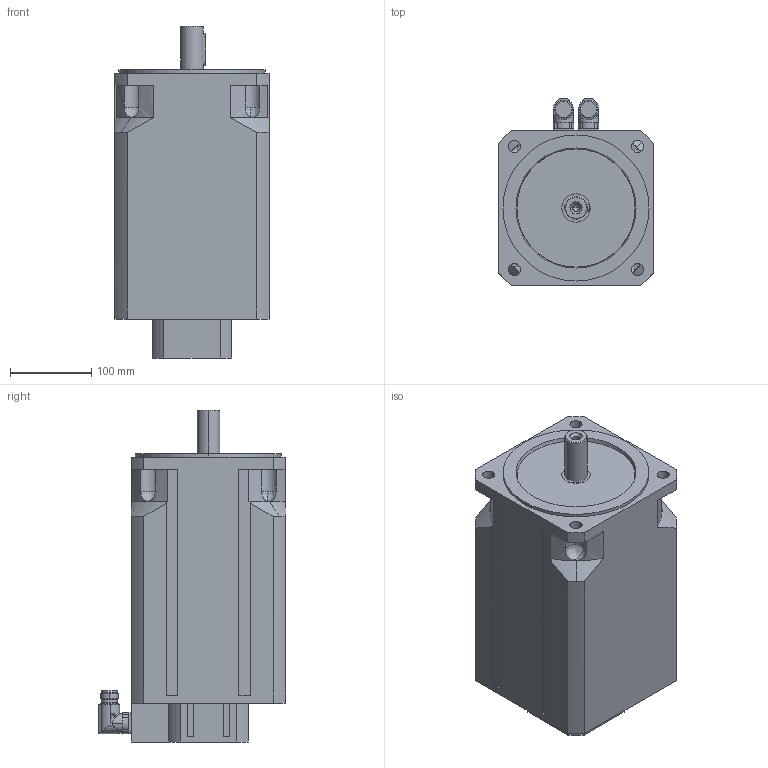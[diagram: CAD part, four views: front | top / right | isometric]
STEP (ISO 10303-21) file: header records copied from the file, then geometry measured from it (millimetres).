
FILE_DESCRIPTION(('STEP AP203'),'2;1');
FILE_NAME('MT7-4000_BX.stp','2006-08-28T20:57:42',(''),(''),'2005.2.102','THINKDESIGN','');
FILE_SCHEMA(('CONFIG_CONTROL_DESIGN'));
Length unit declared in the file: millimetre
Bounding box: 190 x 230.5 x 409 mm (x, y, z)
Volume: 11275933.6 mm3; surface area: 353819.6 mm2
Topology: 3 solids, 3 shells, 275 faces, 749 edges, 481 vertices
Faces by surface type: cylinder 120, plane 107, bspline 48
Full cylindrical faces by diameter (mm): 20 x2
Entity records: 9842 total; most frequent: CARTESIAN_POINT 2891, ORIENTED_EDGE 1478, DIRECTION 1427, EDGE_CURVE 739, AXIS2_PLACEMENT_3D 539, VERTEX_POINT 481, VECTOR 349, LINE 349
